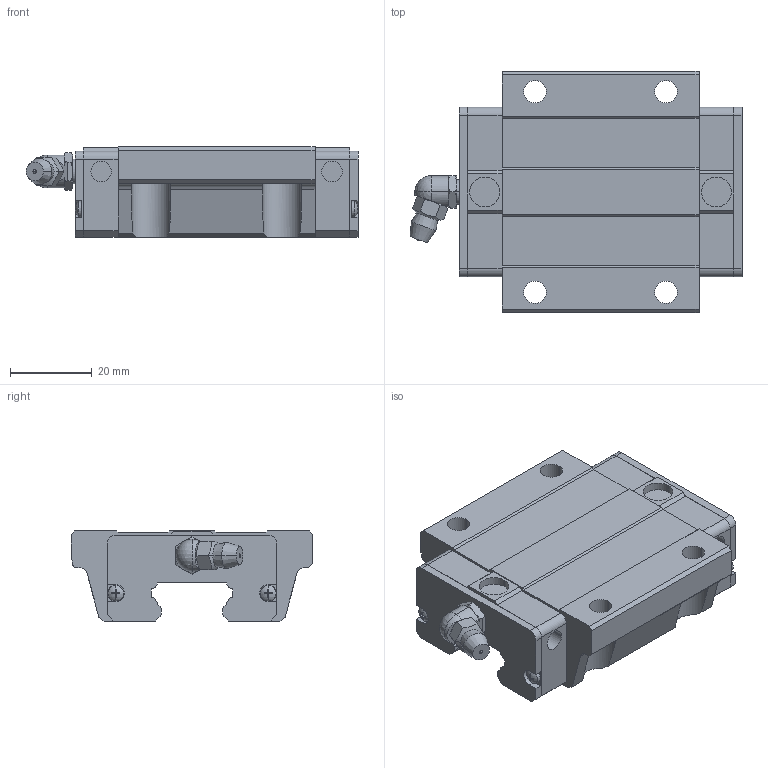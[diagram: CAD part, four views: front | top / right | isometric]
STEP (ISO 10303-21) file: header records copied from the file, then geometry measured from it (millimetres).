
FILE_DESCRIPTION(('starvars output'),'2;1');
FILE_NAME('cv20190626223812000075111.stp','22:38:13 2019/06/26',( 'Thomas Industrial Network Germany GmbH'),( 'Thomas Industrial Network Germany GmbH'),'unknown preprocess','ACIS' ,'unknown authorization');
FILE_SCHEMA(('CONFIG_CONTROL_DESIGN {UNKNOWN IMPLEMENTATION LEVEL}'));
Length unit declared in the file: millimetre
Products named in the file (10): PRODUCT_ID_1; PRODUCT_ID_2; PRODUCT_ID_3; PRODUCT_ID_4; PRODUCT_ID_5; PRODUCT_ID_6; PRODUCT_ID_7; PRODUCT_ID_8; PRODUCT_ID_9; PRODUCT_ID_10
Bounding box: 81.1 x 59 x 22 mm (x, y, z)
Volume: 59609.7 mm3; surface area: 21234.1 mm2
Topology: 10 solids, 10 shells, 419 faces, 1130 edges, 736 vertices
Faces by surface type: plane 235, cylinder 132, cone 40, sphere 12
Entity records: 12926 total; most frequent: ORIENTED_EDGE 2252, CARTESIAN_POINT 2134, DIRECTION 1909, EDGE_CURVE 1126, VERTEX_POINT 736, AXIS2_PLACEMENT_3D 637, VECTOR 635, LINE 635
